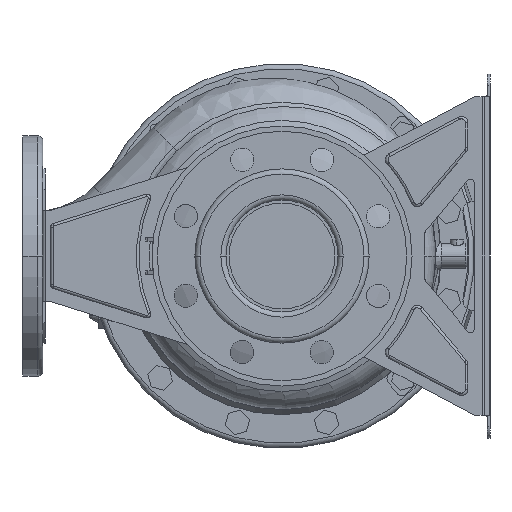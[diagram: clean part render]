
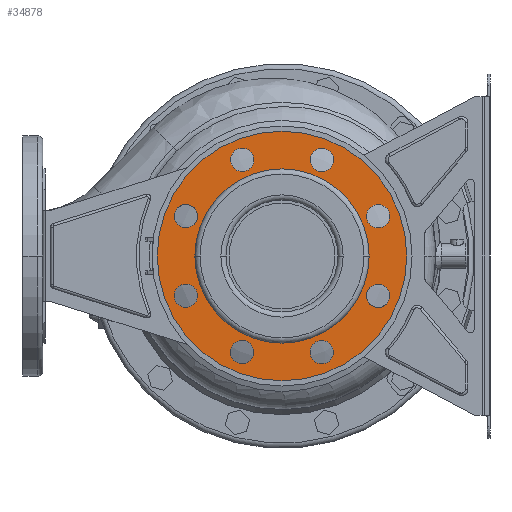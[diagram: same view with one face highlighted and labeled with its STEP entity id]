
A CAD part, front view. The second image highlights one B-rep face of the part: STEP entity #34878.
In plain terms, the highlighted planar face has unit normal (0, -1, 0) as drawn and (-1, 0, 0) by its records, which use the part's own axes.
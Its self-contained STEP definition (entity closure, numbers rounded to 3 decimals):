
#34011=CARTESIAN_POINT('',(14.,0.,0.));
#34012=DIRECTION('',(-1.,0.,0.));
#34013=DIRECTION('',(0.,1.,0.));
#34014=AXIS2_PLACEMENT_3D('',#34011,#34012,#34013);
#34019=CARTESIAN_POINT('',(14.,0.,0.));
#34020=DIRECTION('',(1.,0.,0.));
#34021=DIRECTION('',(0.,1.,0.));
#34022=AXIS2_PLACEMENT_3D('',#34019,#34020,#34021);
#34027=CARTESIAN_POINT('',(14.,-73.91,30.615));
#34028=DIRECTION('',(1.,0.,0.));
#34029=DIRECTION('',(0.,1.,0.));
#34030=AXIS2_PLACEMENT_3D('',#34027,#34028,#34029);
#34035=CARTESIAN_POINT('',(14.,-73.91,30.615));
#34036=DIRECTION('',(1.,0.,0.));
#34037=DIRECTION('',(0.,-1.,0.));
#34038=AXIS2_PLACEMENT_3D('',#34035,#34036,#34037);
#34043=CARTESIAN_POINT('',(14.,-73.91,-30.615));
#34044=DIRECTION('',(1.,0.,0.));
#34045=DIRECTION('',(0.,0.707,0.707));
#34046=AXIS2_PLACEMENT_3D('',#34043,#34044,#34045);
#34051=CARTESIAN_POINT('',(14.,-73.91,-30.615));
#34052=DIRECTION('',(1.,0.,0.));
#34053=DIRECTION('',(0.,-0.707,-0.707));
#34054=AXIS2_PLACEMENT_3D('',#34051,#34052,#34053);
#34059=CARTESIAN_POINT('',(14.,-30.615,-73.91));
#34060=DIRECTION('',(1.,0.,0.));
#34061=DIRECTION('',(0.,0.,1.));
#34062=AXIS2_PLACEMENT_3D('',#34059,#34060,#34061);
#34067=CARTESIAN_POINT('',(14.,-30.615,-73.91));
#34068=DIRECTION('',(1.,0.,0.));
#34069=DIRECTION('',(0.,0.,-1.));
#34070=AXIS2_PLACEMENT_3D('',#34067,#34068,#34069);
#34075=CARTESIAN_POINT('',(14.,30.615,-73.91));
#34076=DIRECTION('',(1.,0.,0.));
#34077=DIRECTION('',(0.,-0.707,0.707));
#34078=AXIS2_PLACEMENT_3D('',#34075,#34076,#34077);
#34083=CARTESIAN_POINT('',(14.,30.615,-73.91));
#34084=DIRECTION('',(1.,0.,0.));
#34085=DIRECTION('',(0.,0.707,-0.707));
#34086=AXIS2_PLACEMENT_3D('',#34083,#34084,#34085);
#34091=CARTESIAN_POINT('',(14.,73.91,-30.615));
#34092=DIRECTION('',(1.,0.,0.));
#34093=DIRECTION('',(0.,-1.,0.));
#34094=AXIS2_PLACEMENT_3D('',#34091,#34092,#34093);
#34099=CARTESIAN_POINT('',(14.,73.91,-30.615));
#34100=DIRECTION('',(1.,0.,0.));
#34101=DIRECTION('',(0.,1.,0.));
#34102=AXIS2_PLACEMENT_3D('',#34099,#34100,#34101);
#34107=CARTESIAN_POINT('',(14.,73.91,30.615));
#34108=DIRECTION('',(1.,0.,0.));
#34109=DIRECTION('',(0.,-0.707,-0.707));
#34110=AXIS2_PLACEMENT_3D('',#34107,#34108,#34109);
#34115=CARTESIAN_POINT('',(14.,73.91,30.615));
#34116=DIRECTION('',(1.,0.,0.));
#34117=DIRECTION('',(0.,0.707,0.707));
#34118=AXIS2_PLACEMENT_3D('',#34115,#34116,#34117);
#34123=CARTESIAN_POINT('',(14.,30.615,73.91));
#34124=DIRECTION('',(1.,0.,0.));
#34125=DIRECTION('',(0.,0.,-1.));
#34126=AXIS2_PLACEMENT_3D('',#34123,#34124,#34125);
#34131=CARTESIAN_POINT('',(14.,30.615,73.91));
#34132=DIRECTION('',(1.,0.,0.));
#34133=DIRECTION('',(0.,0.,1.));
#34134=AXIS2_PLACEMENT_3D('',#34131,#34132,#34133);
#34139=CARTESIAN_POINT('',(14.,-30.615,73.91));
#34140=DIRECTION('',(1.,0.,0.));
#34141=DIRECTION('',(0.,0.707,-0.707));
#34142=AXIS2_PLACEMENT_3D('',#34139,#34140,#34141);
#34147=CARTESIAN_POINT('',(14.,-30.615,73.91));
#34148=DIRECTION('',(1.,0.,0.));
#34149=DIRECTION('',(0.,-0.707,0.707));
#34150=AXIS2_PLACEMENT_3D('',#34147,#34148,#34149);
#34155=CARTESIAN_POINT('',(14.,0.,0.));
#34156=DIRECTION('',(1.,0.,0.));
#34157=DIRECTION('',(0.,1.,0.));
#34158=AXIS2_PLACEMENT_3D('',#34155,#34156,#34157);
#34177=CARTESIAN_POINT('',(14.,0.,0.));
#34178=DIRECTION('',(-1.,0.,0.));
#34179=DIRECTION('',(0.,1.,0.));
#34180=AXIS2_PLACEMENT_3D('',#34177,#34178,#34179);
#34398=CARTESIAN_POINT('',(14.,96.,0.));
#34400=VERTEX_POINT('',#34398);
#34401=CARTESIAN_POINT('',(14.,67.,0.));
#34403=VERTEX_POINT('',#34401);
#34430=CARTESIAN_POINT('',(14.,-96.,0.));
#34432=VERTEX_POINT('',#34430);
#34433=CARTESIAN_POINT('',(14.,-67.,0.));
#34435=VERTEX_POINT('',#34433);
#34445=CARTESIAN_POINT('',(14.,-64.91,30.615));
#34446=CARTESIAN_POINT('',(14.,-82.91,30.615));
#34447=VERTEX_POINT('',#34445);
#34448=VERTEX_POINT('',#34446);
#34453=CARTESIAN_POINT('',(14.,-67.546,-24.251));
#34454=CARTESIAN_POINT('',(14.,-80.274,-36.979));
#34455=VERTEX_POINT('',#34453);
#34456=VERTEX_POINT('',#34454);
#34461=CARTESIAN_POINT('',(14.,-30.615,-64.91));
#34462=CARTESIAN_POINT('',(14.,-30.615,-82.91));
#34463=VERTEX_POINT('',#34461);
#34464=VERTEX_POINT('',#34462);
#34469=CARTESIAN_POINT('',(14.,24.251,-67.546));
#34470=CARTESIAN_POINT('',(14.,36.979,-80.274));
#34471=VERTEX_POINT('',#34469);
#34472=VERTEX_POINT('',#34470);
#34477=CARTESIAN_POINT('',(14.,64.91,-30.615));
#34478=CARTESIAN_POINT('',(14.,82.91,-30.615));
#34479=VERTEX_POINT('',#34477);
#34480=VERTEX_POINT('',#34478);
#34485=CARTESIAN_POINT('',(14.,67.546,24.251));
#34486=CARTESIAN_POINT('',(14.,80.274,36.979));
#34487=VERTEX_POINT('',#34485);
#34488=VERTEX_POINT('',#34486);
#34493=CARTESIAN_POINT('',(14.,30.615,64.91));
#34494=CARTESIAN_POINT('',(14.,30.615,82.91));
#34495=VERTEX_POINT('',#34493);
#34496=VERTEX_POINT('',#34494);
#34501=CARTESIAN_POINT('',(14.,-24.251,67.546));
#34502=CARTESIAN_POINT('',(14.,-36.979,80.274));
#34503=VERTEX_POINT('',#34501);
#34504=VERTEX_POINT('',#34502);
#34815=CARTESIAN_POINT('',(14.,0.,0.));
#34816=DIRECTION('',(1.,0.,0.));
#34817=DIRECTION('',(0.,-1.,0.));
#34818=AXIS2_PLACEMENT_3D('',#34815,#34816,#34817);
#34819=PLANE('',#34818);
#34820=ORIENTED_EDGE('',*,*,#34808,.F.);
#34821=ORIENTED_EDGE('',*,*,#34797,.T.);
#34822=EDGE_LOOP('',(#34820,#34821));
#34823=FACE_OUTER_BOUND('',#34822,.F.);
#34825=ORIENTED_EDGE('',*,*,#34824,.F.);
#34827=ORIENTED_EDGE('',*,*,#34826,.T.);
#34828=EDGE_LOOP('',(#34825,#34827));
#34829=FACE_BOUND('',#34828,.F.);
#34831=ORIENTED_EDGE('',*,*,#34830,.F.);
#34833=ORIENTED_EDGE('',*,*,#34832,.F.);
#34834=EDGE_LOOP('',(#34831,#34833));
#34835=FACE_BOUND('',#34834,.F.);
#34837=ORIENTED_EDGE('',*,*,#34836,.F.);
#34839=ORIENTED_EDGE('',*,*,#34838,.F.);
#34840=EDGE_LOOP('',(#34837,#34839));
#34841=FACE_BOUND('',#34840,.F.);
#34843=ORIENTED_EDGE('',*,*,#34842,.F.);
#34845=ORIENTED_EDGE('',*,*,#34844,.F.);
#34846=EDGE_LOOP('',(#34843,#34845));
#34847=FACE_BOUND('',#34846,.F.);
#34849=ORIENTED_EDGE('',*,*,#34848,.F.);
#34851=ORIENTED_EDGE('',*,*,#34850,.F.);
#34852=EDGE_LOOP('',(#34849,#34851));
#34853=FACE_BOUND('',#34852,.F.);
#34855=ORIENTED_EDGE('',*,*,#34854,.F.);
#34857=ORIENTED_EDGE('',*,*,#34856,.F.);
#34858=EDGE_LOOP('',(#34855,#34857));
#34859=FACE_BOUND('',#34858,.F.);
#34861=ORIENTED_EDGE('',*,*,#34860,.F.);
#34863=ORIENTED_EDGE('',*,*,#34862,.F.);
#34864=EDGE_LOOP('',(#34861,#34863));
#34865=FACE_BOUND('',#34864,.F.);
#34867=ORIENTED_EDGE('',*,*,#34866,.F.);
#34869=ORIENTED_EDGE('',*,*,#34868,.F.);
#34870=EDGE_LOOP('',(#34867,#34869));
#34871=FACE_BOUND('',#34870,.F.);
#34873=ORIENTED_EDGE('',*,*,#34872,.F.);
#34875=ORIENTED_EDGE('',*,*,#34874,.F.);
#34876=EDGE_LOOP('',(#34873,#34875));
#34877=FACE_BOUND('',#34876,.F.);
#34015=CIRCLE('',#34014,96.);
#34023=CIRCLE('',#34022,96.);
#34031=CIRCLE('',#34030,9.);
#34039=CIRCLE('',#34038,9.);
#34047=CIRCLE('',#34046,9.);
#34055=CIRCLE('',#34054,9.);
#34063=CIRCLE('',#34062,9.);
#34071=CIRCLE('',#34070,9.);
#34079=CIRCLE('',#34078,9.);
#34087=CIRCLE('',#34086,9.);
#34095=CIRCLE('',#34094,9.);
#34103=CIRCLE('',#34102,9.);
#34111=CIRCLE('',#34110,9.);
#34119=CIRCLE('',#34118,9.);
#34127=CIRCLE('',#34126,9.);
#34135=CIRCLE('',#34134,9.);
#34143=CIRCLE('',#34142,9.);
#34151=CIRCLE('',#34150,9.);
#34159=CIRCLE('',#34158,67.);
#34181=CIRCLE('',#34180,67.);
#34797=EDGE_CURVE('',#34400,#34432,#34023,.T.);
#34808=EDGE_CURVE('',#34400,#34432,#34015,.T.);
#34824=EDGE_CURVE('',#34403,#34435,#34159,.T.);
#34826=EDGE_CURVE('',#34403,#34435,#34181,.T.);
#34830=EDGE_CURVE('',#34447,#34448,#34031,.T.);
#34832=EDGE_CURVE('',#34448,#34447,#34039,.T.);
#34836=EDGE_CURVE('',#34455,#34456,#34047,.T.);
#34838=EDGE_CURVE('',#34456,#34455,#34055,.T.);
#34842=EDGE_CURVE('',#34463,#34464,#34063,.T.);
#34844=EDGE_CURVE('',#34464,#34463,#34071,.T.);
#34848=EDGE_CURVE('',#34471,#34472,#34079,.T.);
#34850=EDGE_CURVE('',#34472,#34471,#34087,.T.);
#34854=EDGE_CURVE('',#34479,#34480,#34095,.T.);
#34856=EDGE_CURVE('',#34480,#34479,#34103,.T.);
#34860=EDGE_CURVE('',#34487,#34488,#34111,.T.);
#34862=EDGE_CURVE('',#34488,#34487,#34119,.T.);
#34866=EDGE_CURVE('',#34495,#34496,#34127,.T.);
#34868=EDGE_CURVE('',#34496,#34495,#34135,.T.);
#34872=EDGE_CURVE('',#34503,#34504,#34143,.T.);
#34874=EDGE_CURVE('',#34504,#34503,#34151,.T.);
#34878=ADVANCED_FACE('',(#34823,#34829,#34835,#34841,#34847,#34853,#34859,
#34865,#34871,#34877),#34819,.F.);
